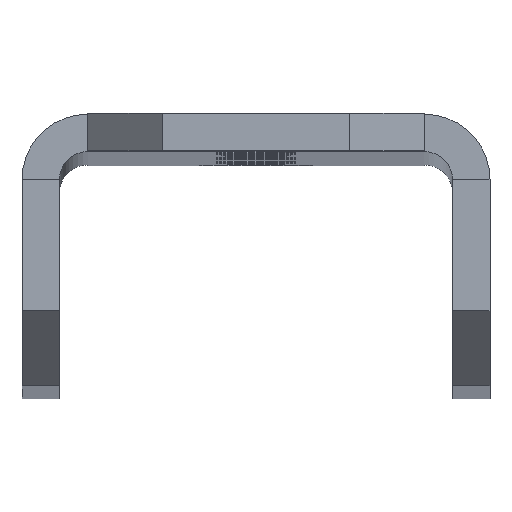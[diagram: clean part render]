
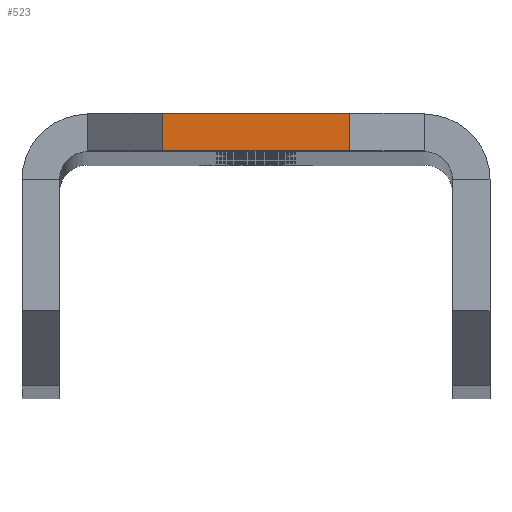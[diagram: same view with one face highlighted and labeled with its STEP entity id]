
A CAD part, top view. The second image highlights one B-rep face of the part: STEP entity #523.
In plain terms, the highlighted planar face has unit normal (0, 0, 1).
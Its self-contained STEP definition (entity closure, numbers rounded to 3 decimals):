
#141 = DIRECTION ( 'NONE',  ( 0., 1., 0. ) ) ;
#204 = LINE ( 'NONE', #548, #756 ) ;
#365 = LINE ( 'NONE', #1786, #3221 ) ;
#389 = EDGE_CURVE ( 'NONE', #972, #1014, #3169, .T. ) ;
#523 = ADVANCED_FACE ( 'NONE', ( #1757 ), #949, .T. ) ;
#548 = CARTESIAN_POINT ( 'NONE',  ( 9., 0., 229.655 ) ) ;
#577 = CARTESIAN_POINT ( 'NONE',  ( 5., -2., 229.655 ) ) ;
#756 = VECTOR ( 'NONE', #2806, 1000. ) ;
#888 = EDGE_CURVE ( 'NONE', #1015, #981, #1822, .T. ) ;
#949 = PLANE ( 'NONE',  #2798 ) ;
#972 = VERTEX_POINT ( 'NONE', #577 ) ;
#981 = VERTEX_POINT ( 'NONE', #1592 ) ;
#1014 = VERTEX_POINT ( 'NONE', #1916 ) ;
#1015 = VERTEX_POINT ( 'NONE', #1630 ) ;
#1040 = DIRECTION ( 'NONE',  ( -1., 0., 0. ) ) ;
#1207 = DIRECTION ( 'NONE',  ( 0., 0., 1. ) ) ;
#1228 = ORIENTED_EDGE ( 'NONE', *, *, #389, .T. ) ;
#1353 = CARTESIAN_POINT ( 'NONE',  ( -5., 0., 229.655 ) ) ;
#1478 = DIRECTION ( 'NONE',  ( 0., -1., 0. ) ) ;
#1592 = CARTESIAN_POINT ( 'NONE',  ( -5., -2., 229.655 ) ) ;
#1630 = CARTESIAN_POINT ( 'NONE',  ( -5., 0., 229.655 ) ) ;
#1648 = CARTESIAN_POINT ( 'NONE',  ( 5., 0., 229.655 ) ) ;
#1757 = FACE_OUTER_BOUND ( 'NONE', #2991, .T. ) ;
#1786 = CARTESIAN_POINT ( 'NONE',  ( 9., -2., 229.655 ) ) ;
#1822 = LINE ( 'NONE', #1353, #2402 ) ;
#1916 = CARTESIAN_POINT ( 'NONE',  ( 5., 0., 229.655 ) ) ;
#2345 = ORIENTED_EDGE ( 'NONE', *, *, #3084, .F. ) ;
#2402 = VECTOR ( 'NONE', #2601, 1000. ) ;
#2601 = DIRECTION ( 'NONE',  ( 0., -1., 0. ) ) ;
#2629 = ORIENTED_EDGE ( 'NONE', *, *, #888, .T. ) ;
#2696 = ORIENTED_EDGE ( 'NONE', *, *, #3152, .T. ) ;
#2700 = CARTESIAN_POINT ( 'NONE',  ( 9., 0., 229.655 ) ) ;
#2798 = AXIS2_PLACEMENT_3D ( 'NONE', #2700, #1207, #1478 ) ;
#2806 = DIRECTION ( 'NONE',  ( -1., 0., 0. ) ) ;
#2970 = VECTOR ( 'NONE', #141, 1000. ) ;
#2991 = EDGE_LOOP ( 'NONE', ( #2345, #1228, #2696, #2629 ) ) ;
#3084 = EDGE_CURVE ( 'NONE', #972, #981, #365, .T. ) ;
#3152 = EDGE_CURVE ( 'NONE', #1014, #1015, #204, .T. ) ;
#3169 = LINE ( 'NONE', #1648, #2970 ) ;
#3221 = VECTOR ( 'NONE', #1040, 1000. ) ;
